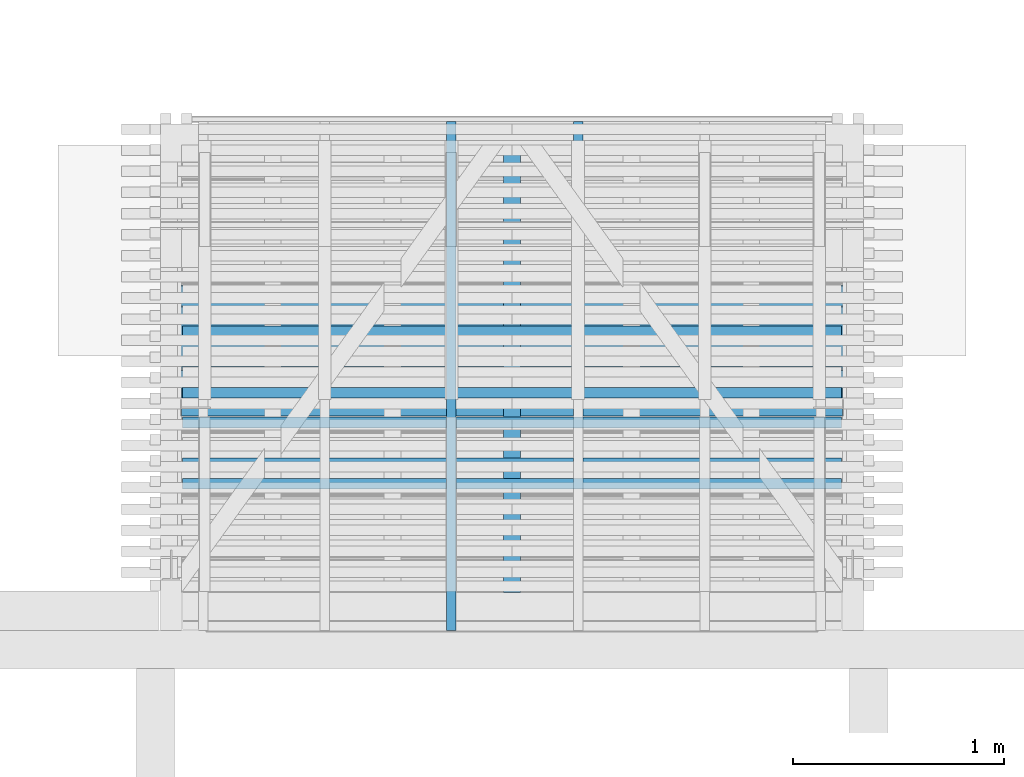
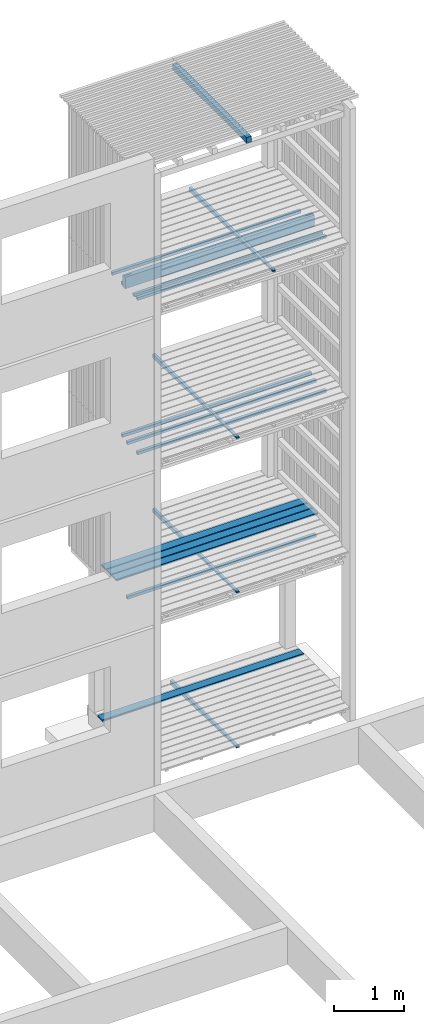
# One storey, part 121 of 182: 18 beams.
"""IFC2X3 building model written with IfcOpenShell, lengths in metres."""

from ifc_helpers import new_model, si_unit, frame, origin, place, context, project, spatial, faceted_brep, element, save


model = new_model("IFC2X3")

# Units and contexts
model_context = context("Model", 3, precision=1e-06, world=origin())
ifc_project = project(units=[si_unit("LENGTHUNIT", "METRE"), si_unit("PLANEANGLEUNIT", "RADIAN")], contexts=[model_context])

# Site, building, storey
site = spatial("IfcSite", under=ifc_project, CompositionType="ELEMENT")
building = spatial("IfcBuilding", under=site, CompositionType="ELEMENT")
storey = spatial("IfcBuildingStorey", under=building, Name="vs", CompositionType="ELEMENT", Elevation=-0.85)

# Beams
placement = place(None, origin())
beam_1_placement = place(placement, frame((54.40299999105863, 4.870077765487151, 2.684400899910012), z_axis=(0.0, 0.0, 1.0), x_axis=(0.0, 1.0, 0.0)))
element("IfcBeam", 1, at=beam_1_placement, inside=storey, Name="Calage", context=model_context, shape_type="Brep", body=[
    faceted_brep([(2.410000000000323, -0.022499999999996, -0.035599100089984), (0.0, -0.022499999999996, 0.012600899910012), (0.0, 0.022500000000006, 0.012600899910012), (2.410000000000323, 0.022500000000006, -0.035599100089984), (0.0, 0.022500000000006, 0.035599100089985), (0.0, 0.022500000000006, 0.012600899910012), (0.0, -0.022499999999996, 0.012600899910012), (0.0, -0.022499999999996, 0.035599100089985), (2.410000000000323, 0.022500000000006, -0.035599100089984), (0.0, 0.022500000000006, 0.012600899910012), (0.0, 0.022500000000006, 0.035599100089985), (2.410000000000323, 0.022500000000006, 0.035599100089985), (2.410000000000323, -0.022499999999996, 0.035599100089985), (0.0, -0.022499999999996, 0.035599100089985), (0.0, -0.022499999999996, 0.012600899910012), (2.410000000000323, -0.022499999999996, -0.035599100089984), (2.410000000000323, 0.022500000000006, 0.035599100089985), (0.0, 0.022500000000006, 0.035599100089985), (0.0, -0.022499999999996, 0.035599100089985), (2.410000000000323, -0.022499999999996, 0.035599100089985), (2.410000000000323, 0.022500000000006, -0.035599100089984), (2.410000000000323, 0.022500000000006, 0.035599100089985), (2.410000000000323, -0.022499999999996, 0.035599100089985), (2.410000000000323, -0.022499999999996, -0.035599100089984)], [[[0, 1, 2, 3]], [[4, 5, 6, 7]], [[8, 9, 10, 11]], [[12, 13, 14, 15]], [[16, 17, 18, 19]], [[20, 21, 22, 23]]]),
])
beam_2_placement = place(placement, frame((56.35499999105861, 6.034577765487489, 2.733499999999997), z_axis=(0.0, 0.0, 1.0), x_axis=(-1.0, -1e-14, 0.0)))
element("IfcBeam", 2, at=beam_2_placement, inside=storey, Name="Caillebotis", context=model_context, shape_type="Brep", body=[
    faceted_brep([(3.329999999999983, -0.072500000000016, -0.0135), (3.329999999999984, 0.072499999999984, -0.0135), (3.329999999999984, 0.072499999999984, 0.0085), (3.329999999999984, 0.067499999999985, 0.0135), (3.329999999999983, -0.067500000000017, 0.0135), (3.329999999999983, -0.072500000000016, 0.008500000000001), (-1.5e-14, -0.072499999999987, 0.008500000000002), (-1.5e-14, -0.067499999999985, 0.0135), (-1.4e-14, 0.067500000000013, 0.0135), (-1.4e-14, 0.072500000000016, 0.0085), (-1.4e-14, 0.072500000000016, -0.0135), (-1.5e-14, -0.072499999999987, -0.0135), (3.329999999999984, 0.072499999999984, 0.0085), (3.329999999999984, 0.072499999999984, -0.0135), (-1.4e-14, 0.072500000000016, -0.0135), (-1.4e-14, 0.072500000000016, 0.0085), (3.329999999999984, 0.067499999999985, 0.0135), (3.329999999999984, 0.072499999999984, 0.0085), (-1.4e-14, 0.072500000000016, 0.0085), (-1.4e-14, 0.067500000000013, 0.0135), (3.329999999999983, -0.067500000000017, 0.0135), (3.329999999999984, 0.067499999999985, 0.0135), (-1.4e-14, 0.067500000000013, 0.0135), (-1.5e-14, -0.067499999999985, 0.0135), (3.329999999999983, -0.072500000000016, 0.008500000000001), (3.329999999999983, -0.067500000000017, 0.0135), (-1.5e-14, -0.067499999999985, 0.0135), (-1.5e-14, -0.072499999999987, 0.008500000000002), (3.329999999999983, -0.072500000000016, -0.0135), (3.329999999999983, -0.072500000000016, 0.008500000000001), (-1.5e-14, -0.072499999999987, 0.008500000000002), (-1.5e-14, -0.072499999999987, -0.0135), (-1.4e-14, 0.072500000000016, -0.0135), (3.329999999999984, 0.072499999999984, -0.0135), (3.329999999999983, -0.072500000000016, -0.0135), (-1.5e-14, -0.072499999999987, -0.0135)], [[[0, 1, 2, 3, 4, 5]], [[6, 7, 8, 9, 10, 11]], [[12, 13, 14, 15]], [[16, 17, 18, 19]], [[20, 21, 22, 23]], [[24, 25, 26, 27]], [[28, 29, 30, 31]], [[32, 33, 34, 35]]]),
])
beam_3_placement = place(placement, frame((55.00299999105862, 4.870077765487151, 8.084400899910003), z_axis=(0.0, 0.0, 1.0), x_axis=(0.0, 1.0, 0.0)))
element("IfcBeam", 3, at=beam_3_placement, inside=storey, Name="Calage", context=model_context, shape_type="Brep", body=[
    faceted_brep([(2.410000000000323, -0.022499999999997, -0.035599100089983), (0.0, -0.022499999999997, 0.012600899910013), (0.0, 0.02249999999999, 0.012600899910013), (2.410000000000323, 0.02249999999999, -0.035599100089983), (0.0, 0.02249999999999, 0.035599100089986), (0.0, 0.02249999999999, 0.012600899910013), (0.0, -0.022499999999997, 0.012600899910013), (0.0, -0.022499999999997, 0.035599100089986), (2.410000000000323, 0.02249999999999, -0.035599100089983), (0.0, 0.02249999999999, 0.012600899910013), (0.0, 0.02249999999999, 0.035599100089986), (2.410000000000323, 0.02249999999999, 0.035599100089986), (2.410000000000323, -0.022499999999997, 0.035599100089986), (0.0, -0.022499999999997, 0.035599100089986), (0.0, -0.022499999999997, 0.012600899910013), (2.410000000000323, -0.022499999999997, -0.035599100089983), (2.410000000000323, 0.02249999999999, 0.035599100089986), (0.0, 0.02249999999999, 0.035599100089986), (0.0, -0.022499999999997, 0.035599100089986), (2.410000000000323, -0.022499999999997, 0.035599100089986), (2.410000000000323, 0.02249999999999, -0.035599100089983), (2.410000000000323, 0.02249999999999, 0.035599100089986), (2.410000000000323, -0.022499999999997, 0.035599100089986), (2.410000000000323, -0.022499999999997, -0.035599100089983)], [[[0, 1, 2, 3]], [[4, 5, 6, 7]], [[8, 9, 10, 11]], [[12, 13, 14, 15]], [[16, 17, 18, 19]], [[20, 21, 22, 23]]]),
])
beam_4_placement = place(placement, frame((56.24999999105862, 5.855077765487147, 2.467999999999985), z_axis=(0.0, 0.0, 1.0), x_axis=(-1.0, -1e-15, 0.0)))
element("IfcBeam", 4, at=beam_4_placement, inside=storey, Name="Bardage", context=model_context, shape_type="Brep", body=[
    faceted_brep([(3.120000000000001, 0.025000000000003, -0.025), (3.120000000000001, -0.025000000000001, -0.025), (-3e-15, -0.024999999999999, -0.025), (-3e-15, 0.025000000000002, -0.025), (-3e-15, -0.024999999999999, -0.025), (3.120000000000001, -0.025000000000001, -0.025), (3.120000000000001, -0.025000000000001, 0.025), (-3e-15, -0.024999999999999, 0.025), (3.120000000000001, -0.025000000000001, -0.025), (3.120000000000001, 0.025000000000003, -0.025), (3.120000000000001, 0.025000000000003, 0.025), (3.120000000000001, -0.025000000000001, 0.025), (3.120000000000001, 0.025000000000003, 0.025), (3.120000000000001, 0.025000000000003, -0.025), (-3e-15, 0.025000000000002, -0.025), (-3e-15, 0.025000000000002, 0.025), (-3e-15, -0.024999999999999, 0.025), (3.120000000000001, -0.025000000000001, 0.025), (3.120000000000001, 0.025000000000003, 0.025), (-3e-15, 0.025000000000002, 0.025), (-3e-15, -0.024999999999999, -0.025), (-3e-15, -0.024999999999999, 0.025), (-3e-15, 0.025000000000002, 0.025), (-3e-15, 0.025000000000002, -0.025)], [[[0, 1, 2, 3]], [[4, 5, 6, 7]], [[8, 9, 10, 11]], [[12, 13, 14, 15]], [[16, 17, 18, 19]], [[20, 21, 22, 23]]]),
])
beam_5_placement = place(placement, frame((56.24999999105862, 5.564452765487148, 7.867999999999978), z_axis=(0.0, 0.0, 1.0), x_axis=(-1.0, 0.0, 0.0)))
element("IfcBeam", 5, at=beam_5_placement, inside=storey, Name="Bardage", context=model_context, shape_type="Brep", body=[
    faceted_brep([(3.120000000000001, 0.025000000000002, -0.025000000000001), (3.120000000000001, -0.024999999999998, -0.025000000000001), (-3e-15, -0.024999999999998, -0.025000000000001), (-3e-15, 0.024999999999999, -0.025000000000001), (-3e-15, -0.024999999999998, -0.025000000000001), (3.120000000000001, -0.024999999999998, -0.025000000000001), (3.120000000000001, -0.024999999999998, 0.024999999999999), (-3e-15, -0.024999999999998, 0.024999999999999), (3.120000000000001, -0.024999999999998, -0.025000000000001), (3.120000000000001, 0.025000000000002, -0.025000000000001), (3.120000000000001, 0.025000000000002, 0.024999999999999), (3.120000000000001, -0.024999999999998, 0.024999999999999), (3.120000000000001, 0.025000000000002, 0.024999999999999), (3.120000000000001, 0.025000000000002, -0.025000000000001), (-3e-15, 0.024999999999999, -0.025000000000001), (-3e-15, 0.024999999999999, 0.024999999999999), (-3e-15, -0.024999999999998, 0.024999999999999), (3.120000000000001, -0.024999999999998, 0.024999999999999), (3.120000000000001, 0.025000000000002, 0.024999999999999), (-3e-15, 0.024999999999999, 0.024999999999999), (-3e-15, -0.024999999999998, -0.025000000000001), (-3e-15, -0.024999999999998, 0.024999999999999), (-3e-15, 0.024999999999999, 0.024999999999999), (-3e-15, 0.024999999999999, -0.025000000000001)], [[[0, 1, 2, 3]], [[4, 5, 6, 7]], [[8, 9, 10, 11]], [[12, 13, 14, 15]], [[16, 17, 18, 19]], [[20, 21, 22, 23]]]),
])
beam_6_placement = place(placement, frame((54.40299999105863, 4.870077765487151, 5.384400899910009), z_axis=(0.0, 0.0, 1.0), x_axis=(0.0, 1.0, 0.0)))
element("IfcBeam", 6, at=beam_6_placement, inside=storey, Name="Calage", context=model_context, shape_type="Brep", body=[
    faceted_brep([(2.410000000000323, -0.022499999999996, -0.035599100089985), (0.0, -0.022499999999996, 0.012600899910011), (0.0, 0.022500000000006, 0.012600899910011), (2.410000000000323, 0.022500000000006, -0.035599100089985), (0.0, 0.022500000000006, 0.035599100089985), (0.0, 0.022500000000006, 0.012600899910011), (0.0, -0.022499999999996, 0.012600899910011), (0.0, -0.022499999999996, 0.035599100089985), (2.410000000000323, 0.022500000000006, -0.035599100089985), (0.0, 0.022500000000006, 0.012600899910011), (0.0, 0.022500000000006, 0.035599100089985), (2.410000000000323, 0.022500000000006, 0.035599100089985), (2.410000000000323, -0.022499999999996, 0.035599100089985), (0.0, -0.022499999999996, 0.035599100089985), (0.0, -0.022499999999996, 0.012600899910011), (2.410000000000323, -0.022499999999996, -0.035599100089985), (2.410000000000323, 0.022500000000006, 0.035599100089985), (0.0, 0.022500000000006, 0.035599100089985), (0.0, -0.022499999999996, 0.035599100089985), (2.410000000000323, -0.022499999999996, 0.035599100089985), (2.410000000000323, 0.022500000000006, -0.035599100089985), (2.410000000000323, 0.022500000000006, 0.035599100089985), (2.410000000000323, -0.022499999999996, 0.035599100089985), (2.410000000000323, -0.022499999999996, -0.035599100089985)], [[[0, 1, 2, 3]], [[4, 5, 6, 7]], [[8, 9, 10, 11]], [[12, 13, 14, 15]], [[16, 17, 18, 19]], [[20, 21, 22, 23]]]),
])
beam_7_placement = place(placement, frame((54.689999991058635, 5.050077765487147, 10.404999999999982), z_axis=(0.0, 0.0, 1.0), x_axis=(0.0, 1.0, 0.0)))
element("IfcBeam", 7, at=beam_7_placement, inside=storey, Name="Support bardage", context=model_context, shape_type="Brep", body=[
    faceted_brep([(2.120000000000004, -0.039999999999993, 0.050000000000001), (2.120000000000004, 0.040000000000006, 0.050000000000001), (3e-15, 0.040000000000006, 0.050000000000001), (3e-15, -0.039999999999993, 0.050000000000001), (3e-15, 0.040000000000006, 0.050000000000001), (2.120000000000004, 0.040000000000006, 0.050000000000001), (2.120000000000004, 0.040000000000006, -0.050000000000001), (3e-15, 0.040000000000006, -0.050000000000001), (2.120000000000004, 0.040000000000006, 0.050000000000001), (2.120000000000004, -0.039999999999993, 0.050000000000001), (2.120000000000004, -0.039999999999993, -0.050000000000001), (2.120000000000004, 0.040000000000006, -0.050000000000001), (2.120000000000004, -0.039999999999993, -0.050000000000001), (2.120000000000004, -0.039999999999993, 0.050000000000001), (3e-15, -0.039999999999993, 0.050000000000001), (3e-15, -0.039999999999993, -0.050000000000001), (3e-15, 0.040000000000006, -0.050000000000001), (2.120000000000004, 0.040000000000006, -0.050000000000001), (2.120000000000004, -0.039999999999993, -0.050000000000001), (3e-15, -0.039999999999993, -0.050000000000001), (3e-15, 0.040000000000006, 0.050000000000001), (3e-15, 0.040000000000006, -0.050000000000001), (3e-15, -0.039999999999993, -0.050000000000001), (3e-15, -0.039999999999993, 0.050000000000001)], [[[0, 1, 2, 3]], [[4, 5, 6, 7]], [[8, 9, 10, 11]], [[12, 13, 14, 15]], [[16, 17, 18, 19]], [[20, 21, 22, 23]]]),
])
beam_8_placement = place(placement, frame((56.24999999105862, 5.661327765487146, 7.867999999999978), z_axis=(0.0, 0.0, 1.0), x_axis=(-1.0, 0.0, 0.0)))
element("IfcBeam", 8, at=beam_8_placement, inside=storey, Name="Bardage", context=model_context, shape_type="Brep", body=[
    faceted_brep([(3.120000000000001, 0.024999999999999, -0.025000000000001), (3.120000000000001, -0.024999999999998, -0.025000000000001), (-3e-15, -0.025000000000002, -0.025000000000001), (-3e-15, 0.024999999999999, -0.025000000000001), (-3e-15, -0.025000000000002, -0.025000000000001), (3.120000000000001, -0.024999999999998, -0.025000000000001), (3.120000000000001, -0.024999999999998, 0.024999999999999), (-3e-15, -0.025000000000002, 0.024999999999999), (3.120000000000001, -0.024999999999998, -0.025000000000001), (3.120000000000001, 0.024999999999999, -0.025000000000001), (3.120000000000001, 0.024999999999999, 0.024999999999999), (3.120000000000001, -0.024999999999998, 0.024999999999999), (3.120000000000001, 0.024999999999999, 0.024999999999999), (3.120000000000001, 0.024999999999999, -0.025000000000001), (-3e-15, 0.024999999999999, -0.025000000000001), (-3e-15, 0.024999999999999, 0.024999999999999), (-3e-15, -0.025000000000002, 0.024999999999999), (3.120000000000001, -0.024999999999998, 0.024999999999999), (3.120000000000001, 0.024999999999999, 0.024999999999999), (-3e-15, 0.024999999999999, 0.024999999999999), (-3e-15, -0.025000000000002, -0.025000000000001), (-3e-15, -0.025000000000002, 0.024999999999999), (-3e-15, 0.024999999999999, 0.024999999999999), (-3e-15, 0.024999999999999, -0.025000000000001)], [[[0, 1, 2, 3]], [[4, 5, 6, 7]], [[8, 9, 10, 11]], [[12, 13, 14, 15]], [[16, 17, 18, 19]], [[20, 21, 22, 23]]]),
])
beam_9_placement = place(placement, frame((56.35499999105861, 6.434577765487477, 0.033500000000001), z_axis=(0.0, 0.0, 1.0), x_axis=(-1.0, -1e-15, 0.0)))
element("IfcBeam", 9, at=beam_9_placement, inside=storey, Name="Caillebotis", context=model_context, shape_type="Brep", body=[
    faceted_brep([(3.329999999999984, -0.067499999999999, 0.0135), (3.329999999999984, -0.072500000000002, 0.008500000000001), (3.329999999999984, -0.072500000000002, -0.013500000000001), (3.329999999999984, 0.072500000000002, -0.013500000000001), (3.329999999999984, 0.072500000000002, 0.0085), (3.329999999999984, 0.067499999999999, 0.0135), (0.0, 0.067500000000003, 0.0135), (0.0, 0.072500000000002, 0.0085), (0.0, 0.072500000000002, -0.013500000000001), (0.0, -0.072499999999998, -0.013500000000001), (0.0, -0.072499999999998, 0.008500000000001), (0.0, -0.067499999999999, 0.0135), (3.329999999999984, -0.072500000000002, -0.013500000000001), (3.329999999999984, -0.072500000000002, 0.008500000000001), (0.0, -0.072499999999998, 0.008500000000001), (0.0, -0.072499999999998, -0.013500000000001), (3.329999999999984, 0.072500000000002, -0.013500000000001), (3.329999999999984, -0.072500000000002, -0.013500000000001), (0.0, -0.072499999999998, -0.013500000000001), (0.0, 0.072500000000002, -0.013500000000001), (3.329999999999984, 0.072500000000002, 0.0085), (3.329999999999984, 0.072500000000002, -0.013500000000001), (0.0, 0.072500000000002, -0.013500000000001), (0.0, 0.072500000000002, 0.0085), (3.329999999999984, 0.067499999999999, 0.0135), (3.329999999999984, 0.072500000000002, 0.0085), (0.0, 0.072500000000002, 0.0085), (0.0, 0.067500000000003, 0.0135), (3.329999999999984, -0.067499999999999, 0.0135), (3.329999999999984, 0.067499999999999, 0.0135), (0.0, 0.067500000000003, 0.0135), (0.0, -0.067499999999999, 0.0135), (0.0, -0.072499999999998, 0.008500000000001), (3.329999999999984, -0.072500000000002, 0.008500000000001), (3.329999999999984, -0.067499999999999, 0.0135), (0.0, -0.067499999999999, 0.0135)], [[[0, 1, 2, 3, 4, 5]], [[6, 7, 8, 9, 10, 11]], [[12, 13, 14, 15]], [[16, 17, 18, 19]], [[20, 21, 22, 23]], [[24, 25, 26, 27]], [[28, 29, 30, 31]], [[32, 33, 34, 35]]]),
])
beam_10_placement = place(placement, frame((56.35499999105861, 6.33457776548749, 2.733499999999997), z_axis=(0.0, 0.0, 1.0), x_axis=(-1.0, -8e-15, 0.0)))
element("IfcBeam", 10, at=beam_10_placement, inside=storey, Name="Caillebotis", context=model_context, shape_type="Brep", body=[
    faceted_brep([(3.329999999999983, -0.072500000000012, -0.0135), (3.329999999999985, 0.072499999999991, -0.0135), (3.329999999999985, 0.072499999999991, 0.0085), (3.329999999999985, 0.067499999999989, 0.0135), (3.329999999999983, -0.067500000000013, 0.0135), (3.329999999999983, -0.072500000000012, 0.008500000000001), (-1.5e-14, -0.072499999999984, 0.008500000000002), (-1.5e-14, -0.067499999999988, 0.0135), (-1.4e-14, 0.067500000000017, 0.0135), (-1.4e-14, 0.072500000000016, 0.0085), (-1.4e-14, 0.072500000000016, -0.0135), (-1.5e-14, -0.072499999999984, -0.0135), (3.329999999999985, 0.072499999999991, 0.0085), (3.329999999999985, 0.072499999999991, -0.0135), (-1.4e-14, 0.072500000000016, -0.0135), (-1.4e-14, 0.072500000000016, 0.0085), (3.329999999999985, 0.067499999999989, 0.0135), (3.329999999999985, 0.072499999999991, 0.0085), (-1.4e-14, 0.072500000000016, 0.0085), (-1.4e-14, 0.067500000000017, 0.0135), (3.329999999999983, -0.067500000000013, 0.0135), (3.329999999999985, 0.067499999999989, 0.0135), (-1.4e-14, 0.067500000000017, 0.0135), (-1.5e-14, -0.067499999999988, 0.0135), (3.329999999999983, -0.072500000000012, 0.008500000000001), (3.329999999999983, -0.067500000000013, 0.0135), (-1.5e-14, -0.067499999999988, 0.0135), (-1.5e-14, -0.072499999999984, 0.008500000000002), (3.329999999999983, -0.072500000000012, -0.0135), (3.329999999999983, -0.072500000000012, 0.008500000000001), (-1.5e-14, -0.072499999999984, 0.008500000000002), (-1.5e-14, -0.072499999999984, -0.0135), (-1.4e-14, 0.072500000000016, -0.0135), (3.329999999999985, 0.072499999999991, -0.0135), (3.329999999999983, -0.072500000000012, -0.0135), (-1.5e-14, -0.072499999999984, -0.0135)], [[[0, 1, 2, 3, 4, 5]], [[6, 7, 8, 9, 10, 11]], [[12, 13, 14, 15]], [[16, 17, 18, 19]], [[20, 21, 22, 23]], [[24, 25, 26, 27]], [[28, 29, 30, 31]], [[32, 33, 34, 35]]]),
])
beam_11_placement = place(placement, frame((56.24999999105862, 5.564452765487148, 5.167999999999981), z_axis=(0.0, 0.0, 1.0), x_axis=(-1.0, 0.0, 0.0)))
element("IfcBeam", 11, at=beam_11_placement, inside=storey, Name="Bardage", context=model_context, shape_type="Brep", body=[
    faceted_brep([(3.120000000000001, 0.025000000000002, -0.025), (3.120000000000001, -0.024999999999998, -0.025), (-3e-15, -0.024999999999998, -0.025), (-3e-15, 0.024999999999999, -0.025), (-3e-15, -0.024999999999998, -0.025), (3.120000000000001, -0.024999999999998, -0.025), (3.120000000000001, -0.024999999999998, 0.025000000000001), (-3e-15, -0.024999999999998, 0.025000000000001), (3.120000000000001, -0.024999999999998, -0.025), (3.120000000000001, 0.025000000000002, -0.025), (3.120000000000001, 0.025000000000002, 0.025000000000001), (3.120000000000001, -0.024999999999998, 0.025000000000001), (3.120000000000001, 0.025000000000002, 0.025000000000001), (3.120000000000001, 0.025000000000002, -0.025), (-3e-15, 0.024999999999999, -0.025), (-3e-15, 0.024999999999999, 0.025000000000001), (-3e-15, -0.024999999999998, 0.025000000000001), (3.120000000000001, -0.024999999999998, 0.025000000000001), (3.120000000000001, 0.025000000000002, 0.025000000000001), (-3e-15, 0.024999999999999, 0.025000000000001), (-3e-15, -0.024999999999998, -0.025), (-3e-15, -0.024999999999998, 0.025000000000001), (-3e-15, 0.024999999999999, 0.025000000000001), (-3e-15, 0.024999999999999, -0.025)], [[[0, 1, 2, 3]], [[4, 5, 6, 7]], [[8, 9, 10, 11]], [[12, 13, 14, 15]], [[16, 17, 18, 19]], [[20, 21, 22, 23]]]),
])
beam_12_placement = place(placement, frame((54.40299999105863, 4.870077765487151, -0.015599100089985), z_axis=(0.0, 0.0, 1.0), x_axis=(0.0, 1.0, 0.0)))
element("IfcBeam", 12, at=beam_12_placement, inside=storey, Name="Calage", context=model_context, shape_type="Brep", body=[
    faceted_brep([(0.0, 0.022500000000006, 0.002600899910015), (1.91000000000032, 0.022500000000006, -0.035599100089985), (1.91000000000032, -0.022499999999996, -0.035599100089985), (0.0, -0.022499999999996, 0.002600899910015), (0.0, -0.022499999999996, 0.035599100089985), (0.0, 0.022500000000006, 0.035599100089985), (0.0, 0.022500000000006, 0.002600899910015), (0.0, -0.022499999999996, 0.002600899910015), (0.0, 0.022500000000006, 0.035599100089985), (0.0, -0.022499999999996, 0.035599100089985), (1.910000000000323, -0.022499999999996, 0.035599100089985), (1.910000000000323, 0.022500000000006, 0.035599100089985), (0.0, 0.022500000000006, 0.002600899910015), (0.0, 0.022500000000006, 0.035599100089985), (1.910000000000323, 0.022500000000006, 0.035599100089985), (1.91000000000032, 0.022500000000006, -0.035599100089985), (1.91000000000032, 0.022500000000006, -0.035599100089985), (1.910000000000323, 0.022500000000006, 0.035599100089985), (1.910000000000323, -0.022499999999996, 0.035599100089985), (1.91000000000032, -0.022499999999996, -0.035599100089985), (1.91000000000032, -0.022499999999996, -0.035599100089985), (1.910000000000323, -0.022499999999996, 0.035599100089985), (0.0, -0.022499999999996, 0.035599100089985), (0.0, -0.022499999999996, 0.002600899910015)], [[[0, 1, 2, 3]], [[4, 5, 6, 7]], [[8, 9, 10, 11]], [[12, 13, 14, 15]], [[16, 17, 18, 19]], [[20, 21, 22, 23]]]),
])
beam_13_placement = place(placement, frame((56.24999999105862, 5.855077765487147, 5.167999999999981), z_axis=(0.0, 0.0, 1.0), x_axis=(-1.0, -1e-15, 0.0)))
element("IfcBeam", 13, at=beam_13_placement, inside=storey, Name="Bardage", context=model_context, shape_type="Brep", body=[
    faceted_brep([(3.120000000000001, 0.025000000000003, -0.025), (3.120000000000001, -0.025000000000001, -0.025), (-3e-15, -0.024999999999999, -0.025), (-3e-15, 0.025000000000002, -0.025), (-3e-15, -0.024999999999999, -0.025), (3.120000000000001, -0.025000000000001, -0.025), (3.120000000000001, -0.025000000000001, 0.025000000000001), (-3e-15, -0.024999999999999, 0.025000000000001), (3.120000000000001, -0.025000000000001, -0.025), (3.120000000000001, 0.025000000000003, -0.025), (3.120000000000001, 0.025000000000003, 0.025000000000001), (3.120000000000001, -0.025000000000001, 0.025000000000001), (3.120000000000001, 0.025000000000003, 0.025000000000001), (3.120000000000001, 0.025000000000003, -0.025), (-3e-15, 0.025000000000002, -0.025), (-3e-15, 0.025000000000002, 0.025000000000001), (-3e-15, -0.024999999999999, 0.025000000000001), (3.120000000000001, -0.025000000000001, 0.025000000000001), (3.120000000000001, 0.025000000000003, 0.025000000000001), (-3e-15, 0.025000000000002, 0.025000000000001), (-3e-15, -0.024999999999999, -0.025), (-3e-15, -0.024999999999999, 0.025000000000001), (-3e-15, 0.025000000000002, 0.025000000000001), (-3e-15, 0.025000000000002, -0.025)], [[[0, 1, 2, 3]], [[4, 5, 6, 7]], [[8, 9, 10, 11]], [[12, 13, 14, 15]], [[16, 17, 18, 19]], [[20, 21, 22, 23]]]),
])
beam_14_placement = place(placement, frame((56.35499999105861, 6.184577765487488, 2.733499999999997), z_axis=(0.0, 0.0, 1.0), x_axis=(-1.0, -8e-15, 0.0)))
element("IfcBeam", 14, at=beam_14_placement, inside=storey, Name="Caillebotis", context=model_context, shape_type="Brep", body=[
    faceted_brep([(3.329999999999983, -0.072500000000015, -0.0135), (3.329999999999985, 0.072499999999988, -0.0135), (3.329999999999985, 0.072499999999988, 0.0085), (3.329999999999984, 0.067499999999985, 0.0135), (3.329999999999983, -0.067500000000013, 0.0135), (3.329999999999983, -0.072500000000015, 0.008500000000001), (-1.5e-14, -0.072499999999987, 0.008500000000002), (-1.5e-14, -0.067499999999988, 0.0135), (-1.4e-14, 0.067500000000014, 0.013500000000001), (-1.4e-14, 0.072500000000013, 0.0085), (-1.4e-14, 0.072500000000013, -0.0135), (-1.5e-14, -0.072499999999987, -0.0135), (3.329999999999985, 0.072499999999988, 0.0085), (3.329999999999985, 0.072499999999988, -0.0135), (-1.4e-14, 0.072500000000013, -0.0135), (-1.4e-14, 0.072500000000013, 0.0085), (3.329999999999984, 0.067499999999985, 0.0135), (3.329999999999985, 0.072499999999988, 0.0085), (-1.4e-14, 0.072500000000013, 0.0085), (-1.4e-14, 0.067500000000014, 0.013500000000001), (3.329999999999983, -0.067500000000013, 0.0135), (3.329999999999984, 0.067499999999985, 0.0135), (-1.4e-14, 0.067500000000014, 0.013500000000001), (-1.5e-14, -0.067499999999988, 0.0135), (3.329999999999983, -0.072500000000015, 0.008500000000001), (3.329999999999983, -0.067500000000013, 0.0135), (-1.5e-14, -0.067499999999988, 0.0135), (-1.5e-14, -0.072499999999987, 0.008500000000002), (3.329999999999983, -0.072500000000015, -0.0135), (3.329999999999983, -0.072500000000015, 0.008500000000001), (-1.5e-14, -0.072499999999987, 0.008500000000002), (-1.5e-14, -0.072499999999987, -0.0135), (-1.4e-14, 0.072500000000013, -0.0135), (3.329999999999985, 0.072499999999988, -0.0135), (3.329999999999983, -0.072500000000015, -0.0135), (-1.5e-14, -0.072499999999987, -0.0135)], [[[0, 1, 2, 3, 4, 5]], [[6, 7, 8, 9, 10, 11]], [[12, 13, 14, 15]], [[16, 17, 18, 19]], [[20, 21, 22, 23]], [[24, 25, 26, 27]], [[28, 29, 30, 31]], [[32, 33, 34, 35]]]),
])
beam_15_placement = place(placement, frame((56.24999999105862, 5.995077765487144, 7.86739999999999), z_axis=(0.0, 0.0, 1.0), x_axis=(-1.0, 0.0, 0.0)))
element("IfcBeam", 15, at=beam_15_placement, inside=storey, Name="Bardage", context=model_context, shape_type="Brep", body=[
    faceted_brep([(-3e-15, 0.024999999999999, -0.024999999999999), (-3e-15, -0.025000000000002, -0.024999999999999), (-3e-15, -0.025000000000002, 0.025000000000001), (-3e-15, 0.024999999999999, 0.025000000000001), (3.120000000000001, -0.025000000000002, 0.025000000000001), (3.120000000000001, -0.025000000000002, -0.024999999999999), (3.120000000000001, 0.025000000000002, -0.024999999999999), (3.120000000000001, 0.025000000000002, 0.025000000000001), (3.120000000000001, -0.025000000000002, -0.024999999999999), (3.120000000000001, -0.025000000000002, 0.025000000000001), (-3e-15, -0.025000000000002, 0.025000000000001), (-3e-15, -0.025000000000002, -0.024999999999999), (3.120000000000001, 0.025000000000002, -0.024999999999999), (3.120000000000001, -0.025000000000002, -0.024999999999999), (-3e-15, -0.025000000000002, -0.024999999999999), (-3e-15, 0.024999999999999, -0.024999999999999), (3.120000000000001, 0.025000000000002, 0.025000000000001), (3.120000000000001, 0.025000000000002, -0.024999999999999), (-3e-15, 0.024999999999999, -0.024999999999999), (-3e-15, 0.024999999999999, 0.025000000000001), (3.120000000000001, -0.025000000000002, 0.025000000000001), (3.120000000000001, 0.025000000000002, 0.025000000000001), (-3e-15, 0.024999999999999, 0.025000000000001), (-3e-15, -0.025000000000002, 0.025000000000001)], [[[0, 1, 2, 3]], [[4, 5, 6, 7]], [[8, 9, 10, 11]], [[12, 13, 14, 15]], [[16, 17, 18, 19]], [[20, 21, 22, 23]]]),
])
beam_16_placement = place(placement, frame((56.24999999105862, 6.286327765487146, 7.86739999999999), z_axis=(0.0, 0.0, 1.0), x_axis=(-1.0, 0.0, 0.0)))
element("IfcBeam", 16, at=beam_16_placement, inside=storey, Name="Bardage", context=model_context, shape_type="Brep", body=[
    faceted_brep([(3.120000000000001, 0.024999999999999, -0.024999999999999), (3.120000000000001, 0.024999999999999, 0.025000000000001), (3.120000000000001, -0.024999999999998, 0.025000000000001), (3.120000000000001, -0.024999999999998, -0.024999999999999), (-3e-15, -0.025000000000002, -0.024999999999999), (-3e-15, -0.025000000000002, 0.025000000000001), (-3e-15, 0.024999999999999, 0.025000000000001), (-3e-15, 0.024999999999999, -0.024999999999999), (-3e-15, 0.024999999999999, -0.024999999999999), (-3e-15, 0.024999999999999, 0.025000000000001), (3.120000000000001, 0.024999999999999, 0.025000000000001), (3.120000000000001, 0.024999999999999, -0.024999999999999), (-3e-15, 0.024999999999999, 0.025000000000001), (-3e-15, -0.025000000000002, 0.025000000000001), (3.120000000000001, -0.024999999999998, 0.025000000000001), (3.120000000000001, 0.024999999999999, 0.025000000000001), (-3e-15, -0.025000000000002, 0.025000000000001), (-3e-15, -0.025000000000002, -0.024999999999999), (3.120000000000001, -0.024999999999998, -0.024999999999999), (3.120000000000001, -0.024999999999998, 0.025000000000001), (-3e-15, -0.025000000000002, -0.024999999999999), (-3e-15, 0.024999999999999, -0.024999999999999), (3.120000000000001, 0.024999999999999, -0.024999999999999), (3.120000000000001, -0.024999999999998, -0.024999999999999)], [[[0, 1, 2, 3]], [[4, 5, 6, 7]], [[8, 9, 10, 11]], [[12, 13, 14, 15]], [[16, 17, 18, 19]], [[20, 21, 22, 23]]]),
])
beam_17_placement = place(placement, frame((56.25499999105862, 5.925077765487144, 7.93999999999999), z_axis=(0.0, 0.0, 1.0), x_axis=(-1.0, 0.0, 0.0)))
element("IfcBeam", 17, at=beam_17_placement, inside=storey, Name="Sommier", context=model_context, shape_type="Brep", body=[
    faceted_brep([(0.137000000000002, -0.004000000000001, -0.100000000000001), (1e-15, -0.004000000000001, -0.100000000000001), (1e-15, -0.004000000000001, 0.1), (0.137000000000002, -0.004000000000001, 0.1), (0.137000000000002, 0.003999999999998, -0.100000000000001), (0.137000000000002, -0.004000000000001, -0.100000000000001), (0.137000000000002, -0.004000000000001, 0.1), (0.137000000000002, 0.003999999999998, 0.1), (1e-15, 0.003999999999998, -0.100000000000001), (0.137000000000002, 0.003999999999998, -0.100000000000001), (0.137000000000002, 0.003999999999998, 0.1), (1e-15, 0.003999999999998, 0.1), (1e-15, -0.004000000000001, 0.1), (1e-15, -0.004000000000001, -0.100000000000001), (1e-15, -0.040000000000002, -0.100000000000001), (1e-15, -0.040000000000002, 0.1), (1e-15, 0.04, 0.1), (1e-15, 0.04, -0.100000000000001), (1e-15, 0.003999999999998, -0.100000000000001), (1e-15, 0.003999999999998, 0.1), (2.992999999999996, 0.004000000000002, 0.1), (2.992999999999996, 0.004000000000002, -0.100000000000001), (3.129999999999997, 0.004000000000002, -0.100000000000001), (3.129999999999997, 0.004000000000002, 0.1), (2.992999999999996, -0.004000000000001, 0.1), (2.992999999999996, -0.004000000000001, -0.100000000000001), (2.992999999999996, 0.004000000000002, -0.100000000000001), (2.992999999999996, 0.004000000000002, 0.1), (3.129999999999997, -0.004000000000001, 0.1), (3.129999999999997, -0.004000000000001, -0.100000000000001), (2.992999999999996, -0.004000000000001, -0.100000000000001), (2.992999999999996, -0.004000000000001, 0.1), (3.129999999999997, 0.004000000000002, 0.1), (3.129999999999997, 0.004000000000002, -0.100000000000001), (3.129999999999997, 0.040000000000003, -0.100000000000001), (3.129999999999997, 0.040000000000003, 0.1), (3.129999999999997, -0.040000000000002, 0.1), (3.129999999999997, -0.040000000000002, -0.100000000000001), (3.129999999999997, -0.004000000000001, -0.100000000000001), (3.129999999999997, -0.004000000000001, 0.1), (2.992999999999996, 0.004000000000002, 0.1), (3.129999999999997, 0.004000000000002, 0.1), (3.129999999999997, 0.040000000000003, 0.1), (1e-15, 0.04, 0.1), (1e-15, 0.003999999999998, 0.1), (0.137000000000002, 0.003999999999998, 0.1), (0.137000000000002, -0.004000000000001, 0.1), (1e-15, -0.004000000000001, 0.1), (1e-15, -0.040000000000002, 0.1), (3.129999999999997, -0.040000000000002, 0.1), (3.129999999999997, -0.004000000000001, 0.1), (2.992999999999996, -0.004000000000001, 0.1), (1e-15, -0.040000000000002, -0.100000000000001), (1e-15, -0.004000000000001, -0.100000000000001), (0.137000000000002, -0.004000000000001, -0.100000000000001), (0.137000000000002, 0.003999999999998, -0.100000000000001), (1e-15, 0.003999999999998, -0.100000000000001), (1e-15, 0.04, -0.100000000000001), (3.129999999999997, 0.040000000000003, -0.100000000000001), (3.129999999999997, 0.004000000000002, -0.100000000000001), (2.992999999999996, 0.004000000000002, -0.100000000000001), (2.992999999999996, -0.004000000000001, -0.100000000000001), (3.129999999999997, -0.004000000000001, -0.100000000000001), (3.129999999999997, -0.040000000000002, -0.100000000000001), (1e-15, -0.040000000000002, -0.100000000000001), (3.129999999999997, -0.040000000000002, -0.100000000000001), (3.129999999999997, -0.040000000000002, 0.1), (1e-15, -0.040000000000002, 0.1), (1e-15, 0.04, 0.1), (3.129999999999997, 0.040000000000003, 0.1), (3.129999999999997, 0.040000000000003, -0.100000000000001), (1e-15, 0.04, -0.100000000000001)], [[[0, 1, 2, 3]], [[4, 5, 6, 7]], [[8, 9, 10, 11]], [[12, 13, 14, 15]], [[16, 17, 18, 19]], [[20, 21, 22, 23]], [[24, 25, 26, 27]], [[28, 29, 30, 31]], [[32, 33, 34, 35]], [[36, 37, 38, 39]], [[40, 41, 42, 43, 44, 45, 46, 47, 48, 49, 50, 51]], [[52, 53, 54, 55, 56, 57, 58, 59, 60, 61, 62, 63]], [[64, 65, 66, 67]], [[68, 69, 70, 71]]]),
])
beam_18_placement = place(placement, frame((53.124999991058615, 5.990077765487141, 5.217399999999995), z_axis=(0.0, 0.0, 1.0), x_axis=(1.0, 0.0, 0.0)))
element("IfcBeam", 18, at=beam_18_placement, inside=storey, Name="Ligneul", context=model_context, shape_type="Brep", body=[
    faceted_brep([(4e-15, -0.024999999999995, 0.024999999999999), (4e-15, -0.024999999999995, -0.025), (3.129999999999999, -0.024999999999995, -0.025), (3.129999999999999, -0.024999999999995, 0.024999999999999), (4e-15, 0.025000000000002, 0.024999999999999), (4e-15, -0.024999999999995, 0.024999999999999), (3.129999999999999, -0.024999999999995, 0.024999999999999), (3.129999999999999, 0.025000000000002, 0.024999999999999), (4e-15, -0.024999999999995, 0.024999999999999), (4e-15, 0.025000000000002, 0.024999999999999), (4e-15, 0.025000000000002, -0.025), (4e-15, -0.024999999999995, -0.025), (4e-15, 0.025000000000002, -0.025), (4e-15, 0.025000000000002, 0.024999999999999), (3.129999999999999, 0.025000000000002, 0.024999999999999), (3.129999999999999, 0.025000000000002, -0.025), (3.129999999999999, -0.024999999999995, -0.025), (4e-15, -0.024999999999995, -0.025), (4e-15, 0.025000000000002, -0.025), (3.129999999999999, 0.025000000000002, -0.025), (3.129999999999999, -0.024999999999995, 0.024999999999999), (3.129999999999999, -0.024999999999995, -0.025), (3.129999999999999, 0.025000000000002, -0.025), (3.129999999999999, 0.025000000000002, 0.024999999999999)], [[[0, 1, 2, 3]], [[4, 5, 6, 7]], [[8, 9, 10, 11]], [[12, 13, 14, 15]], [[16, 17, 18, 19]], [[20, 21, 22, 23]]]),
])

save(model, "model.ifc")
